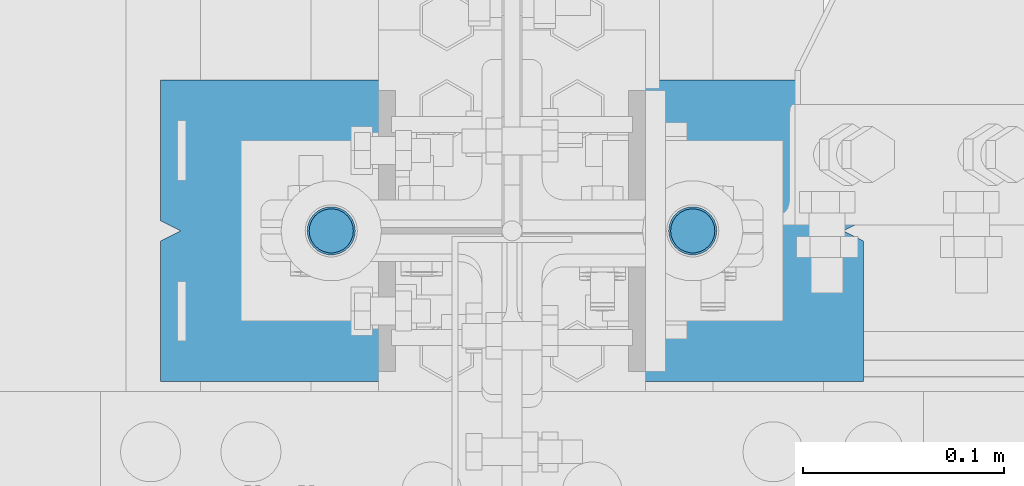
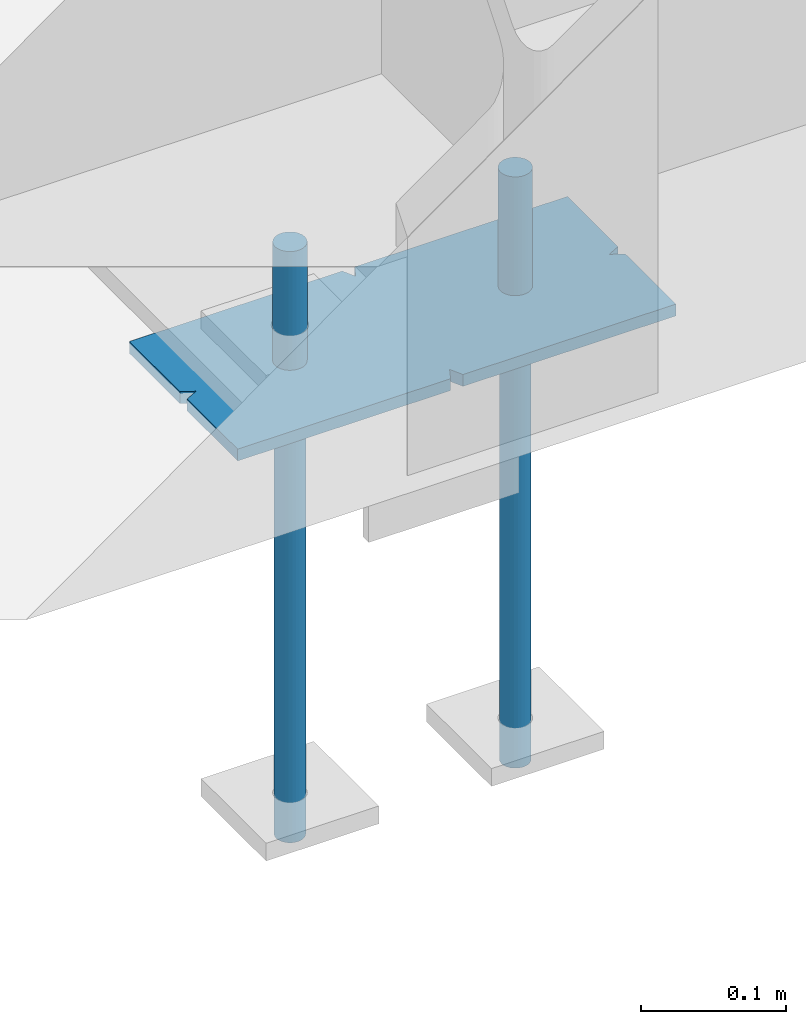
# One storey, part 104 of 362: 5 beams, 1 element without a shape of its own.
"""IFC2X3 building model written with IfcOpenShell, lengths in millimetres."""

import ifcopenshell
import ifcopenshell.guid

model = None  # the IFC model being written
_history = None  # IfcOwnerHistory: only IFC2X3 demands one
_inside = {}  # id of a spatial element -> (the spatial element, [elements in it])
_under = {}  # id of a project, library or spatial element -> (it, [spatial elements below it])
_declared = {}  # id of a project -> (the project, [libraries it declares])
_typed = {}  # id of a type object -> (the type object, [elements of that type])
_made_of = {}  # id of a material, layer set ... -> (it, [elements and type objects made of it])


def new_model(schema):
    """Start an empty IFC model of exactly this schema.

    Asked for "IFC4X3", IfcOpenShell would pick the latest addendum, in which some entities
    have other attributes; the version numbers below select the first issue.
    IFC2X3 requires an IfcOwnerHistory on every rooted entity: one is made here for all.
    """
    global model, _history
    if schema == "IFC4X3":
        model = ifcopenshell.file(schema_version=(4, 3, 0, 0))
    else:
        model = ifcopenshell.file(schema=schema)
    _inside.clear()
    _under.clear()
    _declared.clear()
    _typed.clear()
    _made_of.clear()
    _history = None
    if model.schema == "IFC2X3":
        org = make("IfcOrganization", Name="unknown")
        user = make(
            "IfcPersonAndOrganization",
            ThePerson=make("IfcPerson", FamilyName="unknown"),
            TheOrganization=org,
        )
        app = make(
            "IfcApplication",
            ApplicationDeveloper=org,
            Version="unknown",
            ApplicationFullName="unknown",
            ApplicationIdentifier="unknown",
        )
        _history = make(
            "IfcOwnerHistory",
            OwningUser=user,
            OwningApplication=app,
            ChangeAction="ADDED",
            CreationDate=0,
        )
    return model


def make(cls, **values):
    """One entity of the class cls with the attributes given. An attribute that is None is left unset."""
    return model.create_entity(
        cls, **{name: value for name, value in values.items() if value is not None}
    )


def rooted(cls, **values):
    """An entity with a GlobalId (a new one), such as an element, a storey or a relation."""
    return make(cls, GlobalId=ifcopenshell.guid.new(), OwnerHistory=_history, **values)


def si_unit(unit_type, name, prefix=None):
    """IfcSIUnit, for example si_unit("LENGTHUNIT", "METRE", prefix="MILLI")."""
    return make("IfcSIUnit", UnitType=unit_type, Prefix=prefix, Name=name)


def assignment(units):
    """IfcUnitAssignment: the units of a project."""
    return None if units is None else make("IfcUnitAssignment", Units=units)


def point(xyz):
    """IfcCartesianPoint."""
    return None if xyz is None else make("IfcCartesianPoint", Coordinates=xyz)


def direction(xyz):
    """IfcDirection."""
    return None if xyz is None else make("IfcDirection", DirectionRatios=xyz)


def frame(location, z_axis=None, x_axis=None):
    """IfcAxis2Placement3D, a coordinate frame: its origin and axes. An axis left out is left unset."""
    return make(
        "IfcAxis2Placement3D",
        Location=point(location),
        Axis=direction(z_axis),
        RefDirection=direction(x_axis),
    )


def frame_2d(location, x_axis=None):
    """IfcAxis2Placement2D, a coordinate frame in the plane: its origin and x axis."""
    return make(
        "IfcAxis2Placement2D", Location=point(location), RefDirection=direction(x_axis)
    )


def origin_with_axes():
    """The frame at (0, 0, 0) with the z axis (0, 0, 1) and the x axis (1, 0, 0) written out."""
    return frame((0.0, 0.0, 0.0), z_axis=(0.0, 0.0, 1.0), x_axis=(1.0, 0.0, 0.0))


def origin_2d_with_axis():
    """The frame at (0, 0) in the plane with the x axis (1, 0) written out."""
    return frame_2d((0.0, 0.0), x_axis=(1.0, 0.0))


def place(relative_to, where):
    """IfcLocalPlacement: puts the frame where relative to a parent placement (None: the world)."""
    return make(
        "IfcLocalPlacement", PlacementRelTo=relative_to, RelativePlacement=where
    )


def context(
    kind, dimensions, precision=None, world=None, true_north=None, identifier=None
):
    """IfcGeometricRepresentationContext, for example the 3D "Model" context."""
    return make(
        "IfcGeometricRepresentationContext",
        ContextIdentifier=identifier,
        ContextType=kind,
        CoordinateSpaceDimension=dimensions,
        Precision=precision,
        WorldCoordinateSystem=world,
        TrueNorth=true_north,
    )


def subcontext(parent, identifier, kind, view, scale=None):
    """IfcGeometricRepresentationSubContext, for example "Body" below "Model"."""
    return make(
        "IfcGeometricRepresentationSubContext",
        ContextIdentifier=identifier,
        ContextType=kind,
        ParentContext=parent,
        TargetScale=scale,
        TargetView=view,
    )


def project(units=None, contexts=None):
    """IfcProject with its units and contexts."""
    return rooted(
        "IfcProject",
        Name="project",
        RepresentationContexts=contexts,
        UnitsInContext=assignment(units),
    )


def spatial(cls, under=None, at=None, **own):
    """A site, building, storey or space (cls), placed at a placement, below another one or the project."""
    s = rooted(cls, ObjectPlacement=at, **own)
    if under is not None:
        _under.setdefault(under.id(), (under, []))[1].append(s)
    return s


def polyline(points):
    """IfcPolyline through the points."""
    return make("IfcPolyline", Points=[point(p) for p in points])


def profile(cls, at=None, kind="AREA", **sizes):
    """A parametric profile (cls). Its sizes go by their IFC names, for example OverallWidth=200.0."""
    return make(cls, ProfileType=kind, Position=at, **sizes)


def rectangle(**sizes):
    """IfcRectangleProfileDef."""
    return profile("IfcRectangleProfileDef", **sizes)


def circle(**sizes):
    """IfcCircleProfileDef."""
    return profile("IfcCircleProfileDef", **sizes)


def outline(outer, holes=None, kind="AREA"):
    """IfcArbitraryClosedProfileDef: a profile drawn as a closed curve; with holes, ...WithVoids."""
    if holes is None:
        return make("IfcArbitraryClosedProfileDef", ProfileType=kind, OuterCurve=outer)
    return make(
        "IfcArbitraryProfileDefWithVoids",
        ProfileType=kind,
        OuterCurve=outer,
        InnerCurves=holes,
    )


def extrude(swept, where, along, depth):
    """IfcExtrudedAreaSolid: the profile swept, set in the frame where, extruded along a direction by depth."""
    return make(
        "IfcExtrudedAreaSolid",
        SweptArea=swept,
        Position=where,
        ExtrudedDirection=direction(along),
        Depth=depth,
    )


def boolean(op, a, b):
    """IfcBooleanResult of two solids."""
    return make("IfcBooleanResult", Operator=op, FirstOperand=a, SecondOperand=b)


def shape(context_of_items, identifier, shape_type, items):
    """IfcShapeRepresentation: the items that make up one representation, for example the "Body"."""
    return make(
        "IfcShapeRepresentation",
        ContextOfItems=context_of_items,
        RepresentationIdentifier=identifier,
        RepresentationType=shape_type,
        Items=items,
    )


def material(Name=None, Category=None):
    """IfcMaterial."""
    return make("IfcMaterial", Name=Name, Category=Category)


def made_of(thing, what):
    """Note that an element or type object is made of a material, layer set ...; save() writes the relation."""
    if what is not None:
        _made_of.setdefault(what.id(), (what, []))[1].append(thing)
    return thing


def type_object(cls, material=None, **own):
    """A type object (cls), such as IfcWallType, which elements share."""
    return made_of(rooted(cls, **own), material)


def element(
    cls,
    number,
    at=None,
    inside=None,
    cuts=None,
    type_object=None,
    material=None,
    context=None,
    identifier="Body",
    shape_type=None,
    held_by="IfcProductDefinitionShape",
    body=None,
    shapes=None,
    **own,
):
    """One element of the class cls, such as IfcWall. Its Tag is "e" and its number.

    at: its placement. inside: the storey or other place that contains it. cuts: it is an
    opening in that element (IfcRelVoidsElement). A single representation is given by context,
    identifier, shape_type and body (its items); several are given by shapes. held_by: the class
    of the entity that holds the representations. save() writes the other relations.
    """
    e = rooted(cls, Tag="e%d" % number, ObjectPlacement=at, **own)
    if body is not None:
        shapes = [shape(context, identifier, shape_type, body)]
    if shapes is not None:
        e.Representation = make(held_by, Representations=shapes)
    if inside is not None:
        _inside.setdefault(inside.id(), (inside, []))[1].append(e)
    if cuts is not None:
        rooted(
            "IfcRelVoidsElement", RelatingBuildingElement=cuts, RelatedOpeningElement=e
        )
    if type_object is not None:
        _typed.setdefault(type_object.id(), (type_object, []))[1].append(e)
    return made_of(e, material)


def aggregate(whole, parts):
    """IfcRelAggregates: a whole, such as a stair, and the parts it consists of."""
    return rooted("IfcRelAggregates", RelatingObject=whole, RelatedObjects=parts)


def save(model, path):
    """Write the relations noted so far, then the file.

    IfcRelAggregates (storeys below a building ...), IfcRelContainedInSpatialStructure (elements
    in a storey), IfcRelDefinesByType, IfcRelAssociatesMaterial and IfcRelDeclares: one each for
    every whole, place, type object, material and project.
    """
    for whole, parts in _under.values():
        aggregate(whole, parts)
    for where, things in _inside.values():
        rooted(
            "IfcRelContainedInSpatialStructure",
            RelatedElements=things,
            RelatingStructure=where,
        )
    for kind, things in _typed.values():
        rooted("IfcRelDefinesByType", RelatedObjects=things, RelatingType=kind)
    for what, things in _made_of.values():
        rooted("IfcRelAssociatesMaterial", RelatedObjects=things, RelatingMaterial=what)
    for by, libraries in _declared.values():
        rooted("IfcRelDeclares", RelatingContext=by, RelatedDefinitions=libraries)
    model.write(path)


model = new_model("IFC2X3")

# Units and contexts
model_context = context("Model", 3, precision=1e-05, world=origin_with_axes())
body_context = subcontext(model_context, "Body", "Model", "MODEL_VIEW")
ifc_project = project(units=[si_unit("LENGTHUNIT", "METRE", prefix="MILLI"), si_unit("AREAUNIT", "SQUARE_METRE"), si_unit("VOLUMEUNIT", "CUBIC_METRE"), si_unit("MASSUNIT", "GRAM", prefix="KILO"), si_unit("TIMEUNIT", "SECOND"), si_unit("PLANEANGLEUNIT", "RADIAN"), si_unit("SOLIDANGLEUNIT", "STERADIAN"), si_unit("THERMODYNAMICTEMPERATUREUNIT", "DEGREE_CELSIUS"), si_unit("LUMINOUSINTENSITYUNIT", "LUMEN")], contexts=[model_context])

# Site, building, storey
site_placement = place(None, origin_with_axes())
site = spatial("IfcSite", under=ifc_project, at=site_placement, Name="Undefined", CompositionType="ELEMENT")
building_placement = place(site_placement, origin_with_axes())
building = spatial("IfcBuilding", under=site, at=building_placement, Name="Undefined", CompositionType="ELEMENT")
storey_placement = place(building_placement, origin_with_axes())
storey = spatial("IfcBuildingStorey", under=building, at=storey_placement, Name="Undefined", CompositionType="ELEMENT", Elevation=0.0)

# Assembly, beams
assembly_placement = place(storey_placement, origin_with_axes())
assembly = element("IfcElementAssembly", 1, at=assembly_placement, inside=storey, Name="PRESCELLEMENT PS24", AssemblyPlace="NOTDEFINED", PredefinedType="NOTDEFINED")
ifc_material = material(Name="Undefined/S235-E24")
beam_type_1 = type_object("IfcBeamType", Name="D24", PredefinedType="NOTDEFINED")
beam_1_placement = place(assembly_placement, frame((34189.9971504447, 0.0, -100.0), z_axis=(0.0, 1.0, 0.0), x_axis=(0.0, 0.0, -1.0)))
beam_1 = element("IfcBeam", 2, at=beam_1_placement, type_object=beam_type_1, material=ifc_material, Name="TIGE D'ANCRAGE", ObjectType="D24", context=body_context, shape_type="SweptSolid", body=[
    extrude(circle(Radius=12.0, at=origin_2d_with_axis()), frame((150.0, 0.0, 0.0), z_axis=(-1.0, 0.0, 0.0), x_axis=(0.0, -1.0, 0.0)), (0.0, 0.0, 1.0), 150.0),
])
beam_2_placement = place(assembly_placement, frame((34369.9971504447, 0.0, -100.0), z_axis=(0.0, 1.0, 0.0), x_axis=(0.0, 0.0, -1.0)))
beam_2 = element("IfcBeam", 3, at=beam_2_placement, type_object=beam_type_1, material=ifc_material, Name="TIGE D'ANCRAGE", ObjectType="D24", context=body_context, shape_type="SweptSolid", body=[
    extrude(circle(Radius=12.0, at=origin_2d_with_axis()), frame((150.0, 0.0, 0.0), z_axis=(-1.0, 0.0, 0.0), x_axis=(0.0, -1.0, 0.0)), (0.0, 0.0, 1.0), 150.0),
])
beam_type_2 = type_object("IfcBeamType", Name="D22", PredefinedType="NOTDEFINED")
beam_3_placement = place(assembly_placement, frame((34189.9971504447, 0.0, -250.0), z_axis=(0.0, 1.0, 0.0), x_axis=(0.0, 0.0, -1.0)))
beam_3 = element("IfcBeam", 4, at=beam_3_placement, type_object=beam_type_2, material=ifc_material, Name="TIGE D'ANCRAGE", ObjectType="D22", context=body_context, shape_type="SweptSolid", body=[
    extrude(circle(Radius=11.0, at=origin_2d_with_axis()), frame((350.0, 0.0, 0.0), z_axis=(-1.0, 0.0, 0.0), x_axis=(0.0, -1.0, 0.0)), (0.0, 0.0, 1.0), 350.0),
])
beam_4_placement = place(assembly_placement, frame((34369.9971504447, 0.0, -250.0), z_axis=(0.0, 1.0, 0.0), x_axis=(0.0, 0.0, -1.0)))
beam_4 = element("IfcBeam", 5, at=beam_4_placement, type_object=beam_type_2, material=ifc_material, Name="TIGE D'ANCRAGE", ObjectType="D22", context=body_context, shape_type="SweptSolid", body=[
    extrude(circle(Radius=11.0, at=origin_2d_with_axis()), frame((350.0, 0.0, 0.0), z_axis=(-1.0, 0.0, 0.0), x_axis=(0.0, -1.0, 0.0)), (0.0, 0.0, 1.0), 350.0),
])
beam_type_3 = type_object("IfcBeamType", Name="PL10*150", PredefinedType="NOTDEFINED")
beam_5_placement = place(assembly_placement, frame((34455.0, 0.0, -205.0), z_axis=(0.0, -1.0, 0.0), x_axis=(-1.0, 0.0, 0.0)))
beam_5 = element("IfcBeam", 6, at=beam_5_placement, type_object=beam_type_3, material=ifc_material, Name="PRESCELLEMENT PS24", ObjectType="PL10*150", context=body_context, shape_type="CSG", body=[
    boolean("DIFFERENCE", boolean("DIFFERENCE", boolean("DIFFERENCE", boolean("DIFFERENCE", extrude(rectangle(XDim=10.0, YDim=150.0, at=origin_2d_with_axis()), frame((350.0, 0.0, 0.0), z_axis=(-1.0, 0.0, 0.0), x_axis=(0.0, -1.0, 0.0)), (0.0, 0.0, 1.0), 350.0), extrude(outline(polyline([(0.0, 0.0), (11.1803398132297, 1.2732925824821e-11), (4.47213602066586, 8.94427204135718), (0.0, 0.0)])), frame((0.0, 7.5, -5.0), z_axis=(0.0, -1.0, 0.0), x_axis=(0.894427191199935, 0.0, 0.44721359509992)), (0.0, 0.0, 1.0), 15.0)), extrude(outline(polyline([(0.0, 0.0), (11.1803398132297, 1.2732925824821e-11), (4.47213602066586, 8.94427204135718), (0.0, 0.0)])), frame((180.0, 7.5, -75.0), z_axis=(0.0, -1.0, 0.0), x_axis=(-0.447213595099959, 0.0, 0.894427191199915)), (0.0, 0.0, 1.0), 15.0)), extrude(outline(polyline([(0.0, 0.0), (11.1803398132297, 1.2732925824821e-11), (6.70820379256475, 8.94427204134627), (0.0, 0.0)])), frame((340.0, 7.5, 0.0), z_axis=(0.0, -1.0, 0.0), x_axis=(0.894427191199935, 0.0, -0.44721359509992)), (0.0, 0.0, 1.0), 15.0)), extrude(outline(polyline([(0.0, 0.0), (11.1803398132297, 1.2732925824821e-11), (4.47213602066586, 8.94427204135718), (0.0, 0.0)])), frame((170.0, 7.5, 75.0), z_axis=(0.0, -1.0, 0.0), x_axis=(0.447213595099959, 0.0, -0.894427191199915)), (0.0, 0.0, 1.0), 15.0)),
])
aggregate(assembly, [beam_1, beam_3, beam_2, beam_4, beam_5])

save(model, "model.ifc")
